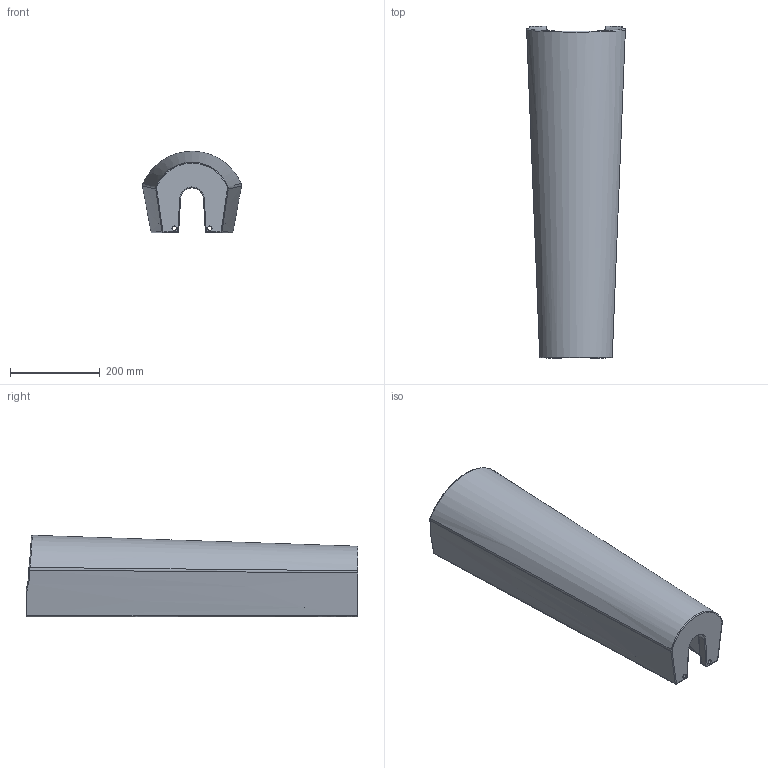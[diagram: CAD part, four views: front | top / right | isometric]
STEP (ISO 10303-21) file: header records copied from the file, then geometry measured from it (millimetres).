
FILE_DESCRIPTION (( 'STEP AP203' ), '1' );
FILE_NAME ('PACLT0000000.STEP', '2019-05-27T09:33:28', ( '' ), ( '' ), 'SwSTEP 2.0', 'SolidWorks 2019', '' );
FILE_SCHEMA (( 'CONFIG_CONTROL_DESIGN' ));
Length unit declared in the file: millimetre
Products named in the file (1): PACLT0000000
Bounding box: 220.55 x 740 x 181.51 mm (x, y, z)
Volume: 8344851.7 mm3; surface area: 676339.1 mm2
Topology: 1 solids, 1 shells, 144 faces, 331 edges, 191 vertices
Faces by surface type: bspline 70, cylinder 37, plane 21, sphere 15, torus 1
Entity records: 14236 total; most frequent: CARTESIAN_POINT 11436, ORIENTED_EDGE 662, DIRECTION 447, EDGE_CURVE 331, VERTEX_POINT 191, AXIS2_PLACEMENT_3D 187, EDGE_LOOP 150, ADVANCED_FACE 144
